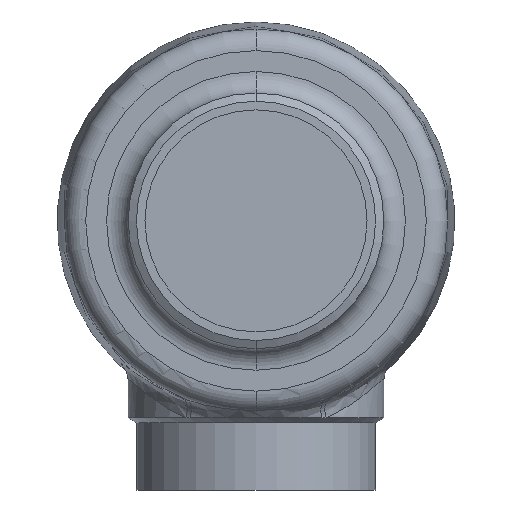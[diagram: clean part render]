
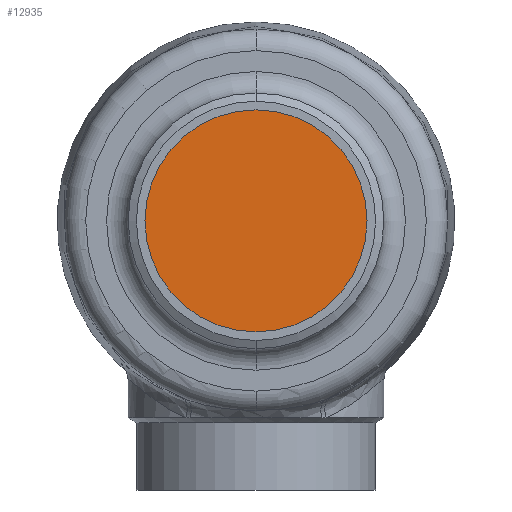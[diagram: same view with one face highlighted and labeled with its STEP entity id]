
A CAD part, front view. The second image highlights one B-rep face of the part: STEP entity #12935.
In plain terms, the highlighted planar face has unit normal (0, -1, 0) as drawn and (0, 0, 1) by its records, which use the part's own axes.
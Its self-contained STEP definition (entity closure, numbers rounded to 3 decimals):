
#1923 = EDGE_CURVE ( 'NONE', #5898, #5692, #2408, .T. ) ;
#2114 = EDGE_CURVE ( 'NONE', #5692, #5898, #2755, .T. ) ;
#2408 = CIRCLE ( 'NONE', #2409, 47. ) ;
#2409 = AXIS2_PLACEMENT_3D ( 'NONE', #2410, #2411, #2412 ) ;
#2410 = CARTESIAN_POINT ( 'NONE',  ( 0., 0., 14. ) ) ;
#2411 = DIRECTION ( 'NONE',  ( 0., 0., 1. ) ) ;
#2412 = DIRECTION ( 'NONE',  ( 1., 0., 0. ) ) ;
#2755 = CIRCLE ( 'NONE', #2756, 47. ) ;
#2756 = AXIS2_PLACEMENT_3D ( 'NONE', #2757, #2758, #2759 ) ;
#2757 = CARTESIAN_POINT ( 'NONE',  ( 0., 0., 14. ) ) ;
#2758 = DIRECTION ( 'NONE',  ( 0., 0., 1. ) ) ;
#2759 = DIRECTION ( 'NONE',  ( 1., 0., 0. ) ) ;
#3559 = FACE_OUTER_BOUND ( 'NONE', #12710, .T. ) ;
#3560 = PLANE ( 'NONE',  #3561 ) ;
#3561 = AXIS2_PLACEMENT_3D ( 'NONE', #3562, #3563, #3564 ) ;
#3562 = CARTESIAN_POINT ( 'NONE',  ( 0., 0., 14. ) ) ;
#3563 = DIRECTION ( 'NONE',  ( 0., 0., 1. ) ) ;
#3564 = DIRECTION ( 'NONE',  ( 1., 0., 0. ) ) ;
#5692 = VERTEX_POINT ( 'NONE', #14332 ) ;
#5898 = VERTEX_POINT ( 'NONE', #14454 ) ;
#8052 = ORIENTED_EDGE ( 'NONE', *, *, #2114, .T. ) ;
#12710 = EDGE_LOOP ( 'NONE', ( #8052, #14217 ) ) ;
#12935 = ADVANCED_FACE ( 'NONE', ( #3559 ), #3560, .T. ) ;
#14217 = ORIENTED_EDGE ( 'NONE', *, *, #1923, .T. ) ;
#14332 = CARTESIAN_POINT ( 'NONE',  ( -47., 0., 14. ) ) ;
#14454 = CARTESIAN_POINT ( 'NONE',  ( 47., 0., 14. ) ) ;
